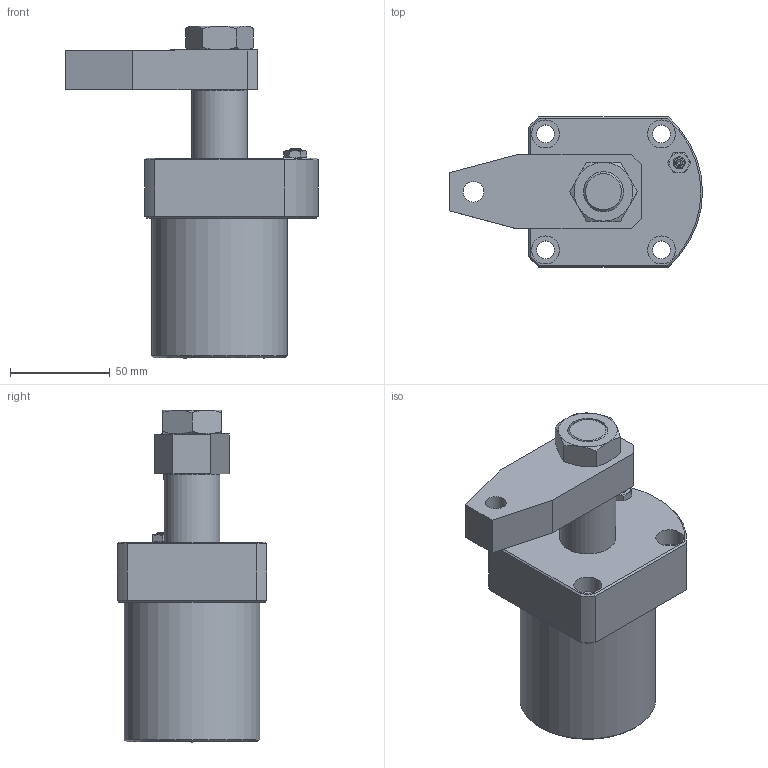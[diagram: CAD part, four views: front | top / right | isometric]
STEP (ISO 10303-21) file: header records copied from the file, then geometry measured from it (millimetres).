
FILE_DESCRIPTION(/* description */ ('Unknown'),/* implementation_level */ '2;1');
FILE_NAME(/* name */ 'HSC-FCM50S-A',/* time_stamp */ '2019-05-23T08:36:32+08:00',/* author */ ('Unknown'),/* organization */ ('Unknown'),/* preprocessor_version */ 'ST-DEVELOPER v16.7',/* originating_system */ 'DEX',/* authorisation */ $);
FILE_SCHEMA (('AUTOMOTIVE_DESIGN {1 0 10303 214 3 1 1}'));
Length unit declared in the file: millimetre
Products named in the file (4): HSC-FCM50S-A; HSC-FCM50S-CYLINDER; HSC-5002-S-AXLE CENTRE; HSC-50S-A
Assembly tree (3 placements, depth 2):
  HSC-FCM50S-A
    HSC-FCM50S-CYLINDER
    HSC-5002-S-AXLE CENTRE
    HSC-50S-A
Bounding box: 126.5 x 75 x 166 mm (x, y, z)
Volume: 458935 mm3; surface area: 81312.4 mm2
Topology: 3 solids, 3 shells, 135 faces, 287 edges, 181 vertices
Faces by surface type: plane 58, cone 35, cylinder 27, bspline 12, torus 3
Full cylindrical faces by diameter (mm): 3 x2, 4.1 x2, 6 x1, 9 x4, 10.3 x1, 12 x2, 14 x4, 20 x2, 21 x1, 28 x2, 50 x2, 68 x1
Entity records: 3965 total; most frequent: CARTESIAN_POINT 949, DIRECTION 504, ORIENTED_EDGE 478, EDGE_CURVE 239, AXIS2_PLACEMENT_3D 222, EDGE_LOOP 208, FACE_BOUND 208, VERTEX_POINT 171
